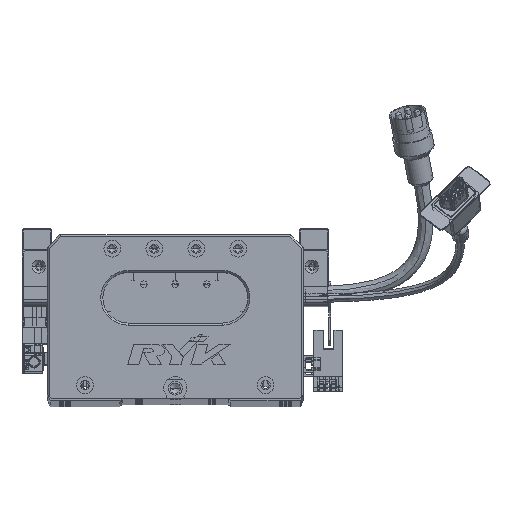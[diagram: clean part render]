
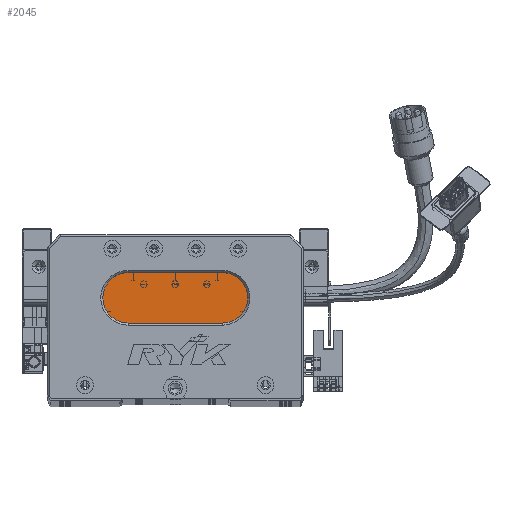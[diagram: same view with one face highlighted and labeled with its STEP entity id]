
A CAD part, top view. The second image highlights one B-rep face of the part: STEP entity #2045.
In plain terms, the highlighted planar face has unit normal (0, 0, 1) as drawn and (0, 0, -1) by its records, which use the part's own axes.
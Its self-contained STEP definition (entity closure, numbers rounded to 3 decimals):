
#192 = VERTEX_POINT ( 'NONE', #71826 ) ;
#723 = DIRECTION ( 'NONE',  ( 0., 0., -1. ) ) ;
#2013 = AXIS2_PLACEMENT_3D ( 'NONE', #4275, #27145, #75424 ) ;
#2045 = ADVANCED_FACE ( 'NONE', ( #27531 ), #76631, .T. ) ;
#3371 = EDGE_CURVE ( 'NONE', #67920, #6993, #96981, .T. ) ;
#4275 = CARTESIAN_POINT ( 'NONE',  ( 83.5, 48., 13. ) ) ;
#6269 = ORIENTED_EDGE ( 'NONE', *, *, #38847, .T. ) ;
#6993 = VERTEX_POINT ( 'NONE', #58858 ) ;
#9021 = DIRECTION ( 'NONE',  ( -1., 0., 0. ) ) ;
#9463 = DIRECTION ( 'NONE',  ( -1., 0., 0. ) ) ;
#12918 = ORIENTED_EDGE ( 'NONE', *, *, #49173, .T. ) ;
#13205 = CARTESIAN_POINT ( 'NONE',  ( 83.5, 36., 13. ) ) ;
#15299 = LINE ( 'NONE', #24381, #93683 ) ;
#16870 = AXIS2_PLACEMENT_3D ( 'NONE', #84672, #37048, #52641 ) ;
#17052 = CARTESIAN_POINT ( 'NONE',  ( 83.5, 60., 13. ) ) ;
#17107 = ORIENTED_EDGE ( 'NONE', *, *, #52865, .T. ) ;
#20241 = CARTESIAN_POINT ( 'NONE',  ( 38.5, 48., 13. ) ) ;
#21252 = DIRECTION ( 'NONE',  ( -1., 0., 0. ) ) ;
#23714 = EDGE_LOOP ( 'NONE', ( #74861, #6269, #53893, #12918, #17107 ) ) ;
#24381 = CARTESIAN_POINT ( 'NONE',  ( 83.5, 36., 13. ) ) ;
#24911 = VECTOR ( 'NONE', #26817, 1000. ) ;
#26817 = DIRECTION ( 'NONE',  ( 1., 0., 0. ) ) ;
#27145 = DIRECTION ( 'NONE',  ( 0., 0., -1. ) ) ;
#27531 = FACE_OUTER_BOUND ( 'NONE', #23714, .T. ) ;
#35897 = DIRECTION ( 'NONE',  ( 0., 0., -1. ) ) ;
#37048 = DIRECTION ( 'NONE',  ( 0., 0., -1. ) ) ;
#38847 = EDGE_CURVE ( 'NONE', #78740, #67920, #15299, .T. ) ;
#49173 = EDGE_CURVE ( 'NONE', #6993, #192, #73831, .T. ) ;
#52641 = DIRECTION ( 'NONE',  ( -1., 0., 0. ) ) ;
#52865 = EDGE_CURVE ( 'NONE', #192, #85462, #54676, .T. ) ;
#53893 = ORIENTED_EDGE ( 'NONE', *, *, #3371, .T. ) ;
#54676 = LINE ( 'NONE', #58059, #24911 ) ;
#56869 = AXIS2_PLACEMENT_3D ( 'NONE', #89284, #723, #9021 ) ;
#58059 = CARTESIAN_POINT ( 'NONE',  ( 83.5, 60., 13. ) ) ;
#58858 = CARTESIAN_POINT ( 'NONE',  ( 26.5, 48., 13. ) ) ;
#62121 = CARTESIAN_POINT ( 'NONE',  ( 38.5, 36., 13. ) ) ;
#67920 = VERTEX_POINT ( 'NONE', #62121 ) ;
#71826 = CARTESIAN_POINT ( 'NONE',  ( 38.5, 60., 13. ) ) ;
#73831 = CIRCLE ( 'NONE', #87016, 12. ) ;
#74861 = ORIENTED_EDGE ( 'NONE', *, *, #98830, .T. ) ;
#75424 = DIRECTION ( 'NONE',  ( -1., 0., 0. ) ) ;
#76631 = PLANE ( 'NONE',  #16870 ) ;
#78740 = VERTEX_POINT ( 'NONE', #13205 ) ;
#84672 = CARTESIAN_POINT ( 'NONE',  ( 83.5, 48., 13. ) ) ;
#85462 = VERTEX_POINT ( 'NONE', #17052 ) ;
#86515 = CIRCLE ( 'NONE', #2013, 12. ) ;
#87016 = AXIS2_PLACEMENT_3D ( 'NONE', #20241, #35897, #21252 ) ;
#89284 = CARTESIAN_POINT ( 'NONE',  ( 38.5, 48., 13. ) ) ;
#93683 = VECTOR ( 'NONE', #9463, 1000. ) ;
#96981 = CIRCLE ( 'NONE', #56869, 12. ) ;
#98830 = EDGE_CURVE ( 'NONE', #85462, #78740, #86515, .T. ) ;
